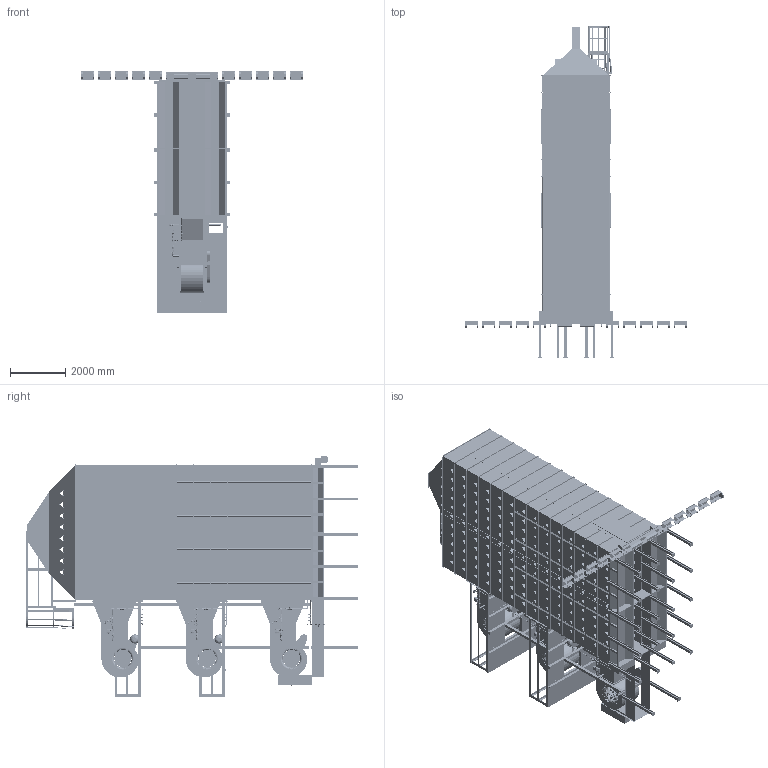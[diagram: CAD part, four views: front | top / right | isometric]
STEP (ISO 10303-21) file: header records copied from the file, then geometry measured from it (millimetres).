
FILE_DESCRIPTION(/* description */ ('PLAN AND ELEVATION VIEW FOR D16160 WITH ROOF & GRAVITY FILL'),/* implementation_level */ '2;1');
FILE_NAME(/* name */ 'C:\Engineering\Designs\Sales\Dryer\Workspaces\D16 All\D16160GF.stp',/* time_stamp */ '2025-01-06T16:51:43-06:00',/* author */ ('max.fleming'),/* organization */ (''),/* preprocessor_version */ 'ST-DEVELOPER v18.1',/* originating_system */ 'Autodesk Inventor 2022',/* authorisation */ '');
FILE_SCHEMA (('AUTOMOTIVE_DESIGN { 1 0 10303 214 3 1 1 }'));
Products named in the file (28): D16160GF; 16FT FRAME; 8FT LHRH FRAME; 16FT CATWALK; 16FT Grav Assy; 16FT ROOF GF; 8FTRoof GF LHRH; Tongue; 16FT BODY TIER; LH Body; RH Body; LH Body_MIR6; RH Body_MIR6; Outside Splice; Standard Size End Plenum Panels; Ladder 2' section; Stiffeners; Platform Support 1-T; 1 Tier Vertical Support; LP Fuel; Platform; Trans & Blower; Belt Shield; Screen Guard; 8'' CROSS AUGER; Leg Kit-02; LP Inlet; Liquid Propane Pipe
Assembly tree (185 placements, depth 3):
  D16160GF
    16FT FRAME
      8FT LHRH FRAME  x2
    16FT CATWALK
    16FT Grav Assy
    16FT ROOF GF
      8FTRoof GF LHRH  x2
    Tongue
    16FT BODY TIER  x14
      LH Body
      RH Body
      LH Body_MIR6
      RH Body_MIR6
      Outside Splice
    Leg Kit-02  x20
    Standard Size End Plenum Panels  x25
    Trans & Blower  x3
    Belt Shield  x3
    Screen Guard  x6
    LP Fuel  x3
    Stiffeners  x64
    Platform  x2
    Platform Support 1-T
    1 Tier Vertical Support  x18
    LP Inlet
    Liquid Propane Pipe  x10
  Ladder 2' section
  8'' CROSS AUGER
Bounding box: 8007.35 x 11997.14 x 8743.95 mm (x, y, z)
Volume: 74996635748.1 mm3; surface area: 1069806522.4 mm2
Topology: 688 solids, 924 shells, 54021 faces, 139635 edges, 89059 vertices
Faces by surface type: plane 24688, cylinder 16044, bspline 5614, cone 5020, torus 2384, sphere 271
Full cylindrical faces by diameter (mm): 1 x15, 1.651 x9, 1.753 x9, 1.778 x18, 2.019 x6, 2.108 x3, 2.286 x36, 2.489 x3, 2.54 x6, 3.091 x432, 3.175 x7, 3.251 x30, 3.306 x432, 3.522 x3, 3.658 x42, 3.8 x24, 4 x576, 4.039 x30, 4.166 x384, 4.191 x6, 4.229 x3, 4.267 x3, 4.369 x12, 4.445 x12, 4.701 x888, 4.762 x24, 4.851 x12, 4.928 x48, 5.283 x3, 5.527 x30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
Entity records: 736445 total; most frequent: CARTESIAN_POINT 335400, ORIENTED_EDGE 83916, DIRECTION 75084, EDGE_CURVE 42098, VERTEX_POINT 26860, AXIS2_PLACEMENT_3D 26227, LINE 22630, VECTOR 22630
